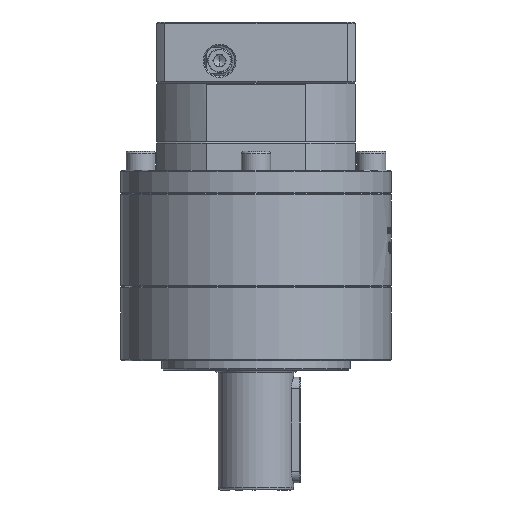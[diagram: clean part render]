
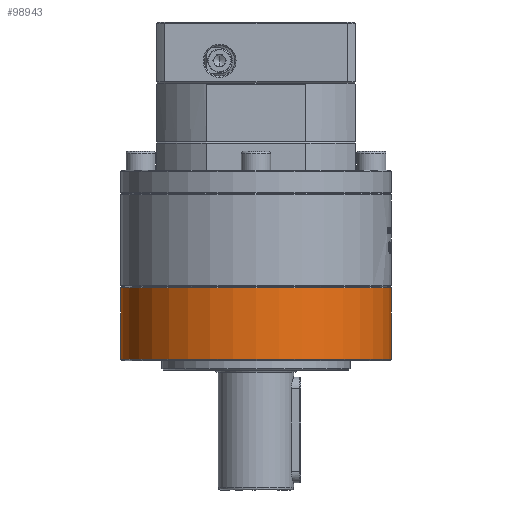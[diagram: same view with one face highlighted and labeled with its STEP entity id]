
A CAD part, left-side view. The second image highlights one B-rep face of the part: STEP entity #98943.
In plain terms, the highlighted cylindrical face has radius 57.5 mm (diameter 115 mm), a partial arc.
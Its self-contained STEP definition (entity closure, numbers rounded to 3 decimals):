
#1255 = CARTESIAN_POINT ( 'NONE',  ( 96.628, -103.688, -85.713 ) ) ;
#3116 = VERTEX_POINT ( 'NONE', #121082 ) ;
#6001 = CARTESIAN_POINT ( 'NONE',  ( 96.628, 11.312, -85.713 ) ) ;
#7504 = VECTOR ( 'NONE', #75427, 1000. ) ;
#8107 = ORIENTED_EDGE ( 'NONE', *, *, #58464, .F. ) ;
#8235 = EDGE_CURVE ( 'NONE', #58350, #102350, #37892, .T. ) ;
#12973 = DIRECTION ( 'NONE',  ( 0., 0., 1. ) ) ;
#13007 = VECTOR ( 'NONE', #20816, 1000. ) ;
#13384 = CARTESIAN_POINT ( 'NONE',  ( 96.628, 11.312, -98.213 ) ) ;
#17060 = AXIS2_PLACEMENT_3D ( 'NONE', #44872, #93045, #121961 ) ;
#20816 = DIRECTION ( 'NONE',  ( 0., 0., 1. ) ) ;
#31398 = CARTESIAN_POINT ( 'NONE',  ( 96.628, -46.188, -98.213 ) ) ;
#31580 = EDGE_CURVE ( 'NONE', #58350, #94665, #74754, .T. ) ;
#37892 = LINE ( 'NONE', #6001, #7504 ) ;
#38411 = CYLINDRICAL_SURFACE ( 'NONE', #54760, 57.5 ) ;
#42090 = DIRECTION ( 'NONE',  ( 0., 0., 1. ) ) ;
#44251 = CIRCLE ( 'NONE', #17060, 57.5 ) ;
#44872 = CARTESIAN_POINT ( 'NONE',  ( 96.628, -46.188, -67.713 ) ) ;
#51302 = DIRECTION ( 'NONE',  ( 0., -1., 0. ) ) ;
#54760 = AXIS2_PLACEMENT_3D ( 'NONE', #91369, #12973, #51302 ) ;
#58350 = VERTEX_POINT ( 'NONE', #13384 ) ;
#58464 = EDGE_CURVE ( 'NONE', #102350, #3116, #44251, .T. ) ;
#63628 = EDGE_CURVE ( 'NONE', #94665, #3116, #90757, .T. ) ;
#74754 = CIRCLE ( 'NONE', #99445, 57.5 ) ;
#75427 = DIRECTION ( 'NONE',  ( 0., 0., 1. ) ) ;
#82665 = FACE_OUTER_BOUND ( 'NONE', #117387, .T. ) ;
#90757 = LINE ( 'NONE', #1255, #13007 ) ;
#91369 = CARTESIAN_POINT ( 'NONE',  ( 96.628, -46.188, -85.713 ) ) ;
#93045 = DIRECTION ( 'NONE',  ( 0., 0., 1. ) ) ;
#93781 = ORIENTED_EDGE ( 'NONE', *, *, #63628, .T. ) ;
#93799 = CARTESIAN_POINT ( 'NONE',  ( 96.628, -103.688, -98.213 ) ) ;
#94665 = VERTEX_POINT ( 'NONE', #93799 ) ;
#98943 = ADVANCED_FACE ( 'NONE', ( #82665 ), #38411, .T. ) ;
#99445 = AXIS2_PLACEMENT_3D ( 'NONE', #31398, #42090, #109337 ) ;
#102350 = VERTEX_POINT ( 'NONE', #103447 ) ;
#103447 = CARTESIAN_POINT ( 'NONE',  ( 96.628, 11.312, -67.713 ) ) ;
#109337 = DIRECTION ( 'NONE',  ( 0., -1., 0. ) ) ;
#114430 = ORIENTED_EDGE ( 'NONE', *, *, #8235, .F. ) ;
#117285 = ORIENTED_EDGE ( 'NONE', *, *, #31580, .T. ) ;
#117387 = EDGE_LOOP ( 'NONE', ( #114430, #117285, #93781, #8107 ) ) ;
#121082 = CARTESIAN_POINT ( 'NONE',  ( 96.628, -103.688, -67.713 ) ) ;
#121961 = DIRECTION ( 'NONE',  ( 0., 1., 0. ) ) ;
